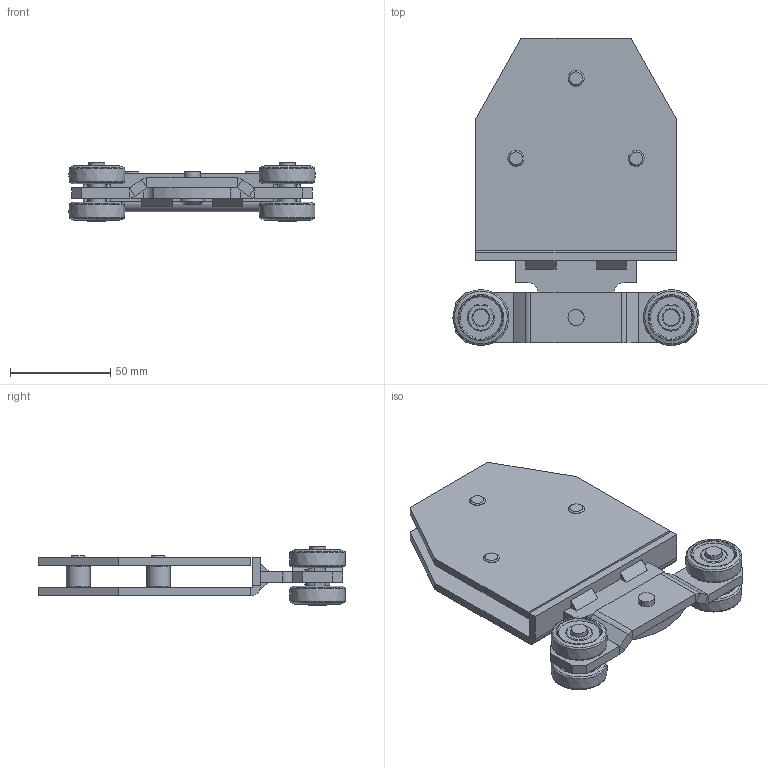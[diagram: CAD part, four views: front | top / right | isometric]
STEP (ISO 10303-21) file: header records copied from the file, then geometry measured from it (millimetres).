
FILE_DESCRIPTION(/* description */ ('Doppelrolle für Platten Nr.1'),/* implementation_level */ '2;1');
FILE_NAME(/* name */ 'Q:\sge-ma\Produktmanagement-STB\STB\Workspace\TraceParts\Doppelrolle für Platten\010337110.stp',/* time_stamp */ '2018-02-21T16:50:08+01:00',/* author */ ('avschreier'),/* organization */ (''),/* preprocessor_version */ 'ST-DEVELOPER v16.1',/* originating_system */ 'Autodesk Inventor 2016',/* authorisation */ '');
FILE_SCHEMA (('CONFIG_CONTROL_DESIGN'));
Length unit declared in the file: millimetre
Products named in the file (12): 010337110_Schweißnähte; 000302053; 337000120; 000302028; 000302029; 000302238; 336290010; 000303235; 000304011; 000302002; DIN_EN_ISO_7046-1-Z-M8x20_en; 010337110
Assembly tree (22 placements, depth 2):
  010337110
    010337110_Schweißnähte
    000302053
    337000120
    000302028
    000302029
    000302238
    336290010  x4
    000303235  x4
    000304011  x2
    000302002  x3
    DIN_EN_ISO_7046-1-Z-M8x20_en  x3
Bounding box: 122.97 x 153.5 x 29 mm (x, y, z)
Volume: 133049.5 mm3; surface area: 75544.5 mm2
Topology: 25 solids, 25 shells, 515 faces, 1211 edges, 768 vertices
Faces by surface type: plane 305, cone 92, cylinder 68, bspline 28, torus 22
Full cylindrical faces by diameter (mm): 6.917 x3, 7.233 x3, 8 x10, 8.1 x1, 8.3 x1, 8.8 x3, 9 x3, 10 x2, 12 x4, 15.8 x3
Entity records: 7968 total; most frequent: CARTESIAN_POINT 2186, DIRECTION 1177, ORIENTED_EDGE 1054, EDGE_CURVE 527, AXIS2_PLACEMENT_3D 426, VERTEX_POINT 355, LINE 325, VECTOR 325
